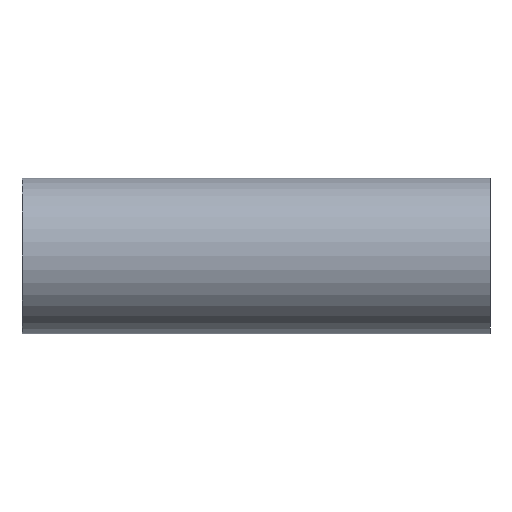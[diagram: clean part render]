
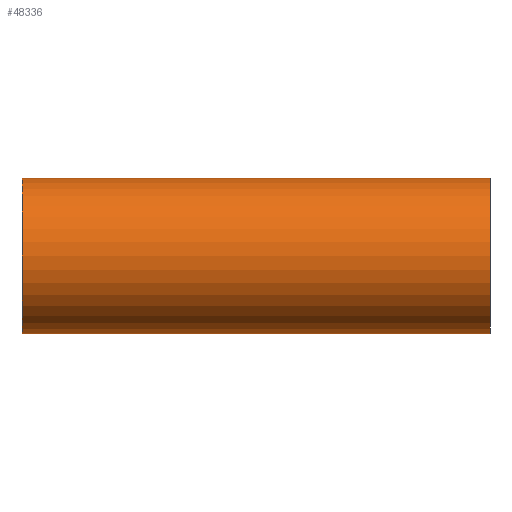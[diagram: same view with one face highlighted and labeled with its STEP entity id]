
A CAD part, left-side view. The second image highlights one B-rep face of the part: STEP entity #48336.
In plain terms, the highlighted cylindrical face has radius 15.975 mm (diameter 31.95 mm), a partial arc.
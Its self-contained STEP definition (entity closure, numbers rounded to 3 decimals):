
#6085 = DIRECTION ( 'NONE',  ( 0., -1., 0. ) ) ;
#6444 = CARTESIAN_POINT ( 'NONE',  ( 0., 96., 0. ) ) ;
#7353 = CARTESIAN_POINT ( 'NONE',  ( 0., 0., -15.975 ) ) ;
#7388 = DIRECTION ( 'NONE',  ( 0., 1., 0. ) ) ;
#9681 = DIRECTION ( 'NONE',  ( 0., -1., 0. ) ) ;
#10166 = CIRCLE ( 'NONE', #31267, 15.975 ) ;
#11098 = LINE ( 'NONE', #13154, #50676 ) ;
#13154 = CARTESIAN_POINT ( 'NONE',  ( 0., 96., 15.975 ) ) ;
#16862 = EDGE_LOOP ( 'NONE', ( #32492, #25427, #19779, #26299 ) ) ;
#17356 = EDGE_CURVE ( 'NONE', #29724, #38137, #11098, .T. ) ;
#17513 = DIRECTION ( 'NONE',  ( 0., 1., 0. ) ) ;
#19779 = ORIENTED_EDGE ( 'NONE', *, *, #21429, .T. ) ;
#21429 = EDGE_CURVE ( 'NONE', #28793, #37728, #22750, .T. ) ;
#22750 = LINE ( 'NONE', #35613, #33827 ) ;
#25427 = ORIENTED_EDGE ( 'NONE', *, *, #48027, .F. ) ;
#25457 = DIRECTION ( 'NONE',  ( 0., 0., -1. ) ) ;
#26299 = ORIENTED_EDGE ( 'NONE', *, *, #47271, .T. ) ;
#27567 = DIRECTION ( 'NONE',  ( 0., 0., 1. ) ) ;
#28510 = DIRECTION ( 'NONE',  ( 0., -1., 0. ) ) ;
#28793 = VERTEX_POINT ( 'NONE', #33144 ) ;
#29724 = VERTEX_POINT ( 'NONE', #30839 ) ;
#30839 = CARTESIAN_POINT ( 'NONE',  ( 0., 96., 15.975 ) ) ;
#31267 = AXIS2_PLACEMENT_3D ( 'NONE', #48764, #17513, #41043 ) ;
#32492 = ORIENTED_EDGE ( 'NONE', *, *, #17356, .F. ) ;
#32666 = CARTESIAN_POINT ( 'NONE',  ( 0., 0., 15.975 ) ) ;
#33144 = CARTESIAN_POINT ( 'NONE',  ( 0., 96., -15.975 ) ) ;
#33827 = VECTOR ( 'NONE', #28510, 1000. ) ;
#34626 = AXIS2_PLACEMENT_3D ( 'NONE', #34868, #7388, #27567 ) ;
#34868 = CARTESIAN_POINT ( 'NONE',  ( 0., 96., 0. ) ) ;
#35613 = CARTESIAN_POINT ( 'NONE',  ( 0., 96., -15.975 ) ) ;
#36802 = FACE_OUTER_BOUND ( 'NONE', #16862, .T. ) ;
#37728 = VERTEX_POINT ( 'NONE', #7353 ) ;
#38137 = VERTEX_POINT ( 'NONE', #32666 ) ;
#39724 = CYLINDRICAL_SURFACE ( 'NONE', #39954, 15.975 ) ;
#39954 = AXIS2_PLACEMENT_3D ( 'NONE', #6444, #6085, #25457 ) ;
#41043 = DIRECTION ( 'NONE',  ( 0., 0., 1. ) ) ;
#47271 = EDGE_CURVE ( 'NONE', #37728, #38137, #10166, .T. ) ;
#48027 = EDGE_CURVE ( 'NONE', #28793, #29724, #48403, .T. ) ;
#48336 = ADVANCED_FACE ( 'NONE', ( #36802 ), #39724, .T. ) ;
#48403 = CIRCLE ( 'NONE', #34626, 15.975 ) ;
#48764 = CARTESIAN_POINT ( 'NONE',  ( 0., 0., 0. ) ) ;
#50676 = VECTOR ( 'NONE', #9681, 1000. ) ;
